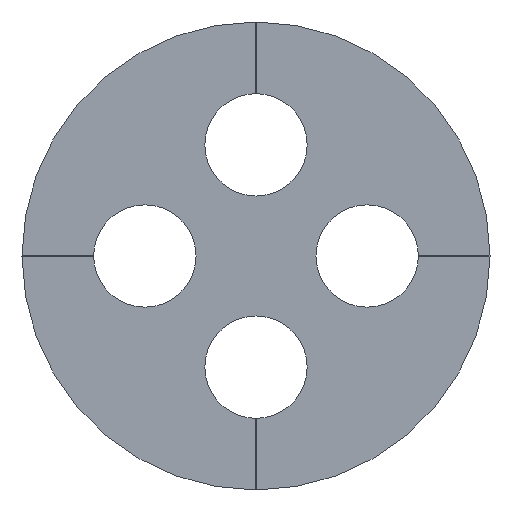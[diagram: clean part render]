
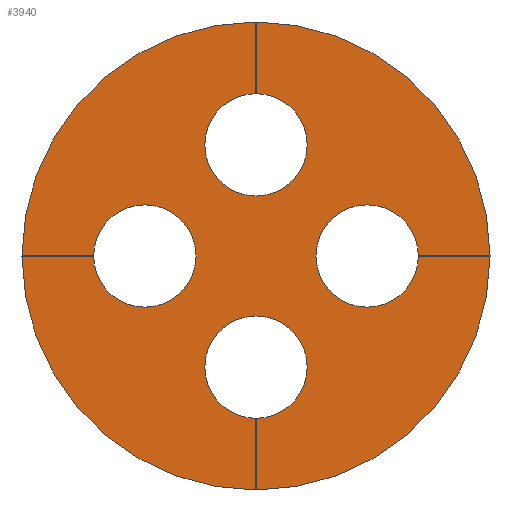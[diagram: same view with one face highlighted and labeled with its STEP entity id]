
A CAD part, left-side view. The second image highlights one B-rep face of the part: STEP entity #3940.
In plain terms, the highlighted planar face has unit normal (-1, 0, 0) as drawn and (0, 0, -1) by its records, which use the part's own axes.
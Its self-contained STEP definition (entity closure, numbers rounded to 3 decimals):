
#2510=CARTESIAN_POINT('',(0.,0.,0.));
#2520=DIRECTION('',(0.,0.,1.));
#2530=DIRECTION('',(1.,0.,0.));
#2540=AXIS2_PLACEMENT_3D('',#2510,#2520,#2530);
#2550=PLANE('',#2540);
#2560=CARTESIAN_POINT('',(38.045,0.,0.));
#2570=DIRECTION('',(0.,1.,0.));
#2580=VECTOR('',#2570,1.);
#2590=LINE('',#2560,#2580);
#2600=CARTESIAN_POINT('',(38.045,47.21,0.));
#2610=VERTEX_POINT('',#2600);
#2620=CARTESIAN_POINT('',(38.045,49.66,0.));
#2630=VERTEX_POINT('',#2620);
#2640=EDGE_CURVE('',#2610,#2630,#2590,.T.);
#2650=ORIENTED_EDGE('',*,*,#2640,.T.);
#2660=CARTESIAN_POINT('',(38.04,55.21,0.));
#2670=DIRECTION('',(0.,0.,1.));
#2680=DIRECTION('',(1.,0.,0.));
#2690=AXIS2_PLACEMENT_3D('',#2660,#2670,#2680);
#2700=CIRCLE('',#2690,8.);
#2710=CARTESIAN_POINT('',(46.04,55.205,0.));
#2720=VERTEX_POINT('',#2710);
#2730=EDGE_CURVE('',#2610,#2720,#2700,.T.);
#2740=ORIENTED_EDGE('',*,*,#2730,.F.);
#2750=CARTESIAN_POINT('',(0.,55.205,0.));
#2760=DIRECTION('',(1.,0.,0.));
#2770=VECTOR('',#2760,1.);
#2780=LINE('',#2750,#2770);
#2790=CARTESIAN_POINT('',(43.59,55.205,0.));
#2800=VERTEX_POINT('',#2790);
#2810=EDGE_CURVE('',#2800,#2720,#2780,.T.);
#2820=ORIENTED_EDGE('',*,*,#2810,.T.);
#2830=CARTESIAN_POINT('',(41.84,55.21,0.));
#2840=DIRECTION('',(0.,0.,1.));
#2850=DIRECTION('',(1.,0.,0.));
#2860=AXIS2_PLACEMENT_3D('',#2830,#2840,#2850);
#2870=CIRCLE('',#2860,1.75);
#2880=CARTESIAN_POINT('',(43.59,55.215,0.));
#2890=VERTEX_POINT('',#2880);
#2900=EDGE_CURVE('',#2890,#2800,#2870,.T.);
#2910=ORIENTED_EDGE('',*,*,#2900,.T.);
#2920=CARTESIAN_POINT('',(0.,55.215,0.));
#2930=DIRECTION('',(-1.,0.,0.));
#2940=VECTOR('',#2930,1.);
#2950=LINE('',#2920,#2940);
#2960=CARTESIAN_POINT('',(46.04,55.215,0.));
#2970=VERTEX_POINT('',#2960);
#2980=EDGE_CURVE('',#2970,#2890,#2950,.T.);
#2990=ORIENTED_EDGE('',*,*,#2980,.T.);
#3000=CARTESIAN_POINT('',(38.04,55.21,0.));
#3010=DIRECTION('',(0.,0.,1.));
#3020=DIRECTION('',(1.,0.,0.));
#3030=AXIS2_PLACEMENT_3D('',#3000,#3010,#3020);
#3040=CIRCLE('',#3030,8.);
#3050=CARTESIAN_POINT('',(38.045,63.21,0.));
#3060=VERTEX_POINT('',#3050);
#3070=EDGE_CURVE('',#2970,#3060,#3040,.T.);
#3080=ORIENTED_EDGE('',*,*,#3070,.F.);
#3090=CARTESIAN_POINT('',(38.045,0.,0.));
#3100=DIRECTION('',(0.,1.,0.));
#3110=VECTOR('',#3100,1.);
#3120=LINE('',#3090,#3110);
#3130=CARTESIAN_POINT('',(38.045,60.76,0.));
#3140=VERTEX_POINT('',#3130);
#3150=EDGE_CURVE('',#3140,#3060,#3120,.T.);
#3160=ORIENTED_EDGE('',*,*,#3150,.T.);
#3170=CARTESIAN_POINT('',(38.04,59.01,0.));
#3180=DIRECTION('',(0.,0.,1.));
#3190=DIRECTION('',(1.,0.,0.));
#3200=AXIS2_PLACEMENT_3D('',#3170,#3180,#3190);
#3210=CIRCLE('',#3200,1.75);
#3220=CARTESIAN_POINT('',(38.035,60.76,0.));
#3230=VERTEX_POINT('',#3220);
#3240=EDGE_CURVE('',#3230,#3140,#3210,.T.);
#3250=ORIENTED_EDGE('',*,*,#3240,.T.);
#3260=CARTESIAN_POINT('',(38.035,0.,0.));
#3270=DIRECTION('',(0.,-1.,0.));
#3280=VECTOR('',#3270,1.);
#3290=LINE('',#3260,#3280);
#3300=CARTESIAN_POINT('',(38.035,63.21,0.));
#3310=VERTEX_POINT('',#3300);
#3320=EDGE_CURVE('',#3310,#3230,#3290,.T.);
#3330=ORIENTED_EDGE('',*,*,#3320,.T.);
#3340=CARTESIAN_POINT('',(38.04,55.21,0.));
#3350=DIRECTION('',(0.,0.,1.));
#3360=DIRECTION('',(1.,0.,0.));
#3370=AXIS2_PLACEMENT_3D('',#3340,#3350,#3360);
#3380=CIRCLE('',#3370,8.);
#3390=CARTESIAN_POINT('',(30.04,55.215,0.));
#3400=VERTEX_POINT('',#3390);
#3410=EDGE_CURVE('',#3310,#3400,#3380,.T.);
#3420=ORIENTED_EDGE('',*,*,#3410,.F.);
#3430=CARTESIAN_POINT('',(0.,55.215,0.));
#3440=DIRECTION('',(-1.,0.,0.));
#3450=VECTOR('',#3440,1.);
#3460=LINE('',#3430,#3450);
#3470=CARTESIAN_POINT('',(32.49,55.215,0.));
#3480=VERTEX_POINT('',#3470);
#3490=EDGE_CURVE('',#3480,#3400,#3460,.T.);
#3500=ORIENTED_EDGE('',*,*,#3490,.T.);
#3510=CARTESIAN_POINT('',(34.24,55.21,0.));
#3520=DIRECTION('',(0.,0.,1.));
#3530=DIRECTION('',(1.,0.,0.));
#3540=AXIS2_PLACEMENT_3D('',#3510,#3520,#3530);
#3550=CIRCLE('',#3540,1.75);
#3560=CARTESIAN_POINT('',(32.49,55.205,0.));
#3570=VERTEX_POINT('',#3560);
#3580=EDGE_CURVE('',#3570,#3480,#3550,.T.);
#3590=ORIENTED_EDGE('',*,*,#3580,.T.);
#3600=CARTESIAN_POINT('',(0.,55.205,0.));
#3610=DIRECTION('',(1.,0.,0.));
#3620=VECTOR('',#3610,1.);
#3630=LINE('',#3600,#3620);
#3640=CARTESIAN_POINT('',(30.04,55.205,0.));
#3650=VERTEX_POINT('',#3640);
#3660=EDGE_CURVE('',#3650,#3570,#3630,.T.);
#3670=ORIENTED_EDGE('',*,*,#3660,.T.);
#3680=CARTESIAN_POINT('',(38.04,55.21,0.));
#3690=DIRECTION('',(0.,0.,1.));
#3700=DIRECTION('',(1.,0.,0.));
#3710=AXIS2_PLACEMENT_3D('',#3680,#3690,#3700);
#3720=CIRCLE('',#3710,8.);
#3730=CARTESIAN_POINT('',(38.035,47.21,0.));
#3740=VERTEX_POINT('',#3730);
#3750=EDGE_CURVE('',#3650,#3740,#3720,.T.);
#3760=ORIENTED_EDGE('',*,*,#3750,.F.);
#3770=CARTESIAN_POINT('',(38.035,0.,0.));
#3780=DIRECTION('',(0.,-1.,0.));
#3790=VECTOR('',#3780,1.);
#3800=LINE('',#3770,#3790);
#3810=CARTESIAN_POINT('',(38.035,49.66,0.));
#3820=VERTEX_POINT('',#3810);
#3830=EDGE_CURVE('',#3820,#3740,#3800,.T.);
#3840=ORIENTED_EDGE('',*,*,#3830,.T.);
#3850=CARTESIAN_POINT('',(38.04,51.41,0.));
#3860=DIRECTION('',(0.,0.,1.));
#3870=DIRECTION('',(1.,0.,0.));
#3880=AXIS2_PLACEMENT_3D('',#3850,#3860,#3870);
#3890=CIRCLE('',#3880,1.75);
#3900=EDGE_CURVE('',#2630,#3820,#3890,.T.);
#3910=ORIENTED_EDGE('',*,*,#3900,.T.);
#3920=EDGE_LOOP('',(#3910,#3840,#3760,#3670,#3590,#3500,#3420,#3330,
#3250,#3160,#3080,#2990,#2910,#2820,#2740,#2650));
#3930=FACE_OUTER_BOUND('',#3920,.T.);
#3940=ADVANCED_FACE('',(#3930),#2550,.F.);
